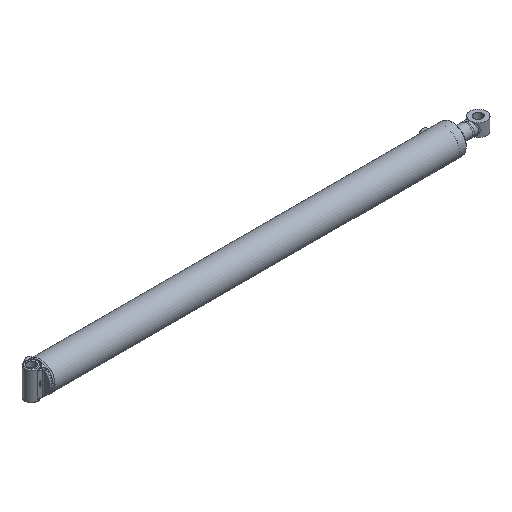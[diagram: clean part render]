
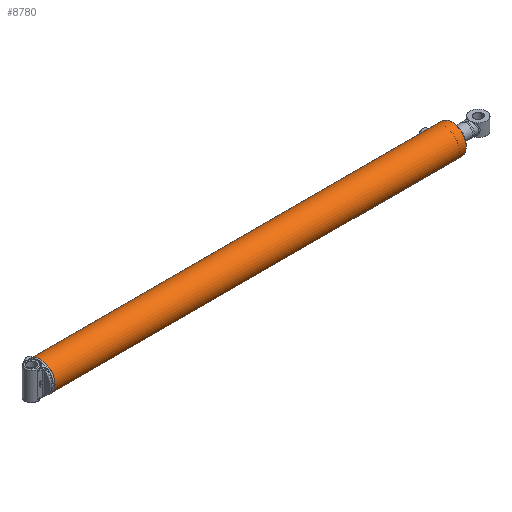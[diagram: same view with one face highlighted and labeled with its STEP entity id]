
A CAD part, isometric view. The second image highlights one B-rep face of the part: STEP entity #8780.
In plain terms, the highlighted cylindrical face has radius 56.356 mm (diameter 112.712 mm), a full revolution.
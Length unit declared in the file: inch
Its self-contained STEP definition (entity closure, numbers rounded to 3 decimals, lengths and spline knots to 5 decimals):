
#808=B_SPLINE_CURVE_WITH_KNOTS('',3,(#13133,#13134,#13135,#13136,#13137,
#13138,#13139,#13140,#13141,#13142),.UNSPECIFIED.,.F.,.F.,(4,2,2,2,4),(0.,
0.23942,0.47883,0.71824,0.95766),
 .UNSPECIFIED.);
#809=B_SPLINE_CURVE_WITH_KNOTS('',3,(#13143,#13144,#13145,#13146,#13147,
#13148,#13149,#13150,#13151,#13152,#13153,#13154,#13155,#13156,#13157,#13158,
#13159,#13160,#13161,#13162,#13163,#13164,#13165,#13166,#13167,#13168),
 .UNSPECIFIED.,.F.,.F.,(4,2,2,2,2,2,2,2,2,2,2,2,4),(0.95766,1.19707,
1.43649,1.6759,1.91532,2.15473,2.39415,
2.63356,2.87297,3.11239,3.3518,3.59122,
3.83063),.UNSPECIFIED.);
#810=B_SPLINE_CURVE_WITH_KNOTS('',3,(#13173,#13174,#13175,#13176,#13177,
#13178,#13179,#13180,#13181,#13182),.UNSPECIFIED.,.F.,.F.,(4,2,2,2,4),(0.,
0.23942,0.47883,0.71824,0.95766),
 .UNSPECIFIED.);
#811=B_SPLINE_CURVE_WITH_KNOTS('',3,(#13183,#13184,#13185,#13186,#13187,
#13188,#13189,#13190,#13191,#13192,#13193,#13194,#13195,#13196,#13197,#13198,
#13199,#13200,#13201,#13202,#13203,#13204,#13205,#13206,#13207,#13208),
 .UNSPECIFIED.,.F.,.F.,(4,2,2,2,2,2,2,2,2,2,2,2,4),(0.95766,1.19707,
1.43649,1.6759,1.91532,2.15473,2.39415,
2.63356,2.87297,3.11239,3.3518,3.59122,
3.83063),.UNSPECIFIED.);
#1096=FACE_BOUND('',#2595,.T.);
#1097=FACE_BOUND('',#2596,.T.);
#1352=LINE('',#13244,#1693);
#1693=VECTOR('',#10661,2.21875);
#2031=CYLINDRICAL_SURFACE('',#9525,2.21875);
#2119=FACE_OUTER_BOUND('',#2594,.T.);
#2594=EDGE_LOOP('',(#6139,#6140,#6141,#6142,#6143,#6144));
#2595=EDGE_LOOP('',(#6145,#6146));
#2596=EDGE_LOOP('',(#6147,#6148));
#3157=CIRCLE('',#9522,2.21875);
#3159=CIRCLE('',#9524,2.21875);
#3160=CIRCLE('',#9526,2.21875);
#3161=CIRCLE('',#9527,2.21875);
#3801=VERTEX_POINT('',#13130);
#3802=VERTEX_POINT('',#13132);
#3803=VERTEX_POINT('',#13170);
#3804=VERTEX_POINT('',#13172);
#3815=VERTEX_POINT('',#13237);
#3816=VERTEX_POINT('',#13238);
#3817=VERTEX_POINT('',#13243);
#3818=VERTEX_POINT('',#13245);
#4736=EDGE_CURVE('',#3802,#3801,#808,.T.);
#4737=EDGE_CURVE('',#3801,#3802,#809,.T.);
#4739=EDGE_CURVE('',#3804,#3803,#810,.T.);
#4740=EDGE_CURVE('',#3803,#3804,#811,.T.);
#4754=EDGE_CURVE('',#3815,#3816,#3157,.T.);
#4756=EDGE_CURVE('',#3816,#3815,#3159,.T.);
#4757=EDGE_CURVE('',#3815,#3817,#1352,.T.);
#4758=EDGE_CURVE('',#3818,#3817,#3160,.T.);
#4759=EDGE_CURVE('',#3817,#3818,#3161,.T.);
#6139=ORIENTED_EDGE('',*,*,#4754,.F.);
#6140=ORIENTED_EDGE('',*,*,#4757,.T.);
#6141=ORIENTED_EDGE('',*,*,#4758,.F.);
#6142=ORIENTED_EDGE('',*,*,#4759,.F.);
#6143=ORIENTED_EDGE('',*,*,#4757,.F.);
#6144=ORIENTED_EDGE('',*,*,#4756,.F.);
#6145=ORIENTED_EDGE('',*,*,#4736,.T.);
#6146=ORIENTED_EDGE('',*,*,#4737,.T.);
#6147=ORIENTED_EDGE('',*,*,#4739,.T.);
#6148=ORIENTED_EDGE('',*,*,#4740,.T.);
#8780=ADVANCED_FACE('',(#2119,#1096,#1097),#2031,.T.);
#9522=AXIS2_PLACEMENT_3D('',#13239,#10653,#10654);
#9524=AXIS2_PLACEMENT_3D('',#13241,#10657,#10658);
#9525=AXIS2_PLACEMENT_3D('',#13242,#10659,#10660);
#9526=AXIS2_PLACEMENT_3D('',#13246,#10662,#10663);
#9527=AXIS2_PLACEMENT_3D('',#13247,#10664,#10665);
#10653=DIRECTION('center_axis',(1.,0.,0.));
#10654=DIRECTION('ref_axis',(0.,-1.,0.));
#10657=DIRECTION('center_axis',(1.,0.,0.));
#10658=DIRECTION('ref_axis',(0.,-1.,0.));
#10659=DIRECTION('center_axis',(1.,0.,0.));
#10660=DIRECTION('ref_axis',(0.,-1.,0.));
#10661=DIRECTION('',(-1.,0.,0.));
#10662=DIRECTION('center_axis',(-1.,0.,0.));
#10663=DIRECTION('ref_axis',(0.,-1.,0.));
#10664=DIRECTION('center_axis',(-1.,0.,0.));
#10665=DIRECTION('ref_axis',(0.,-1.,0.));
#13130=CARTESIAN_POINT('',(0.75,0.,2.21875));
#13132=CARTESIAN_POINT('',(1.,-0.25,2.20462));
#13133=CARTESIAN_POINT('Ctrl Pts',(1.,-0.25,2.20462));
#13134=CARTESIAN_POINT('Ctrl Pts',(0.96858,-0.25,2.20462));
#13135=CARTESIAN_POINT('Ctrl Pts',(0.93509,-0.24372,
2.20536));
#13136=CARTESIAN_POINT('Ctrl Pts',(0.8735,-0.21819,
2.20803));
#13137=CARTESIAN_POINT('Ctrl Pts',(0.8454,-0.19896,
2.20992));
#13138=CARTESIAN_POINT('Ctrl Pts',(0.80104,-0.1546,
2.21347));
#13139=CARTESIAN_POINT('Ctrl Pts',(0.78181,-0.1265,
2.21536));
#13140=CARTESIAN_POINT('Ctrl Pts',(0.75628,-0.06491,
2.21801));
#13141=CARTESIAN_POINT('Ctrl Pts',(0.75,-0.03142,2.21875));
#13142=CARTESIAN_POINT('Ctrl Pts',(0.75,0.,2.21875));
#13143=CARTESIAN_POINT('Ctrl Pts',(0.75,0.,2.21875));
#13144=CARTESIAN_POINT('Ctrl Pts',(0.75,0.03142,2.21875));
#13145=CARTESIAN_POINT('Ctrl Pts',(0.75628,0.06491,
2.21801));
#13146=CARTESIAN_POINT('Ctrl Pts',(0.78181,0.1265,
2.21536));
#13147=CARTESIAN_POINT('Ctrl Pts',(0.80104,0.1546,
2.21347));
#13148=CARTESIAN_POINT('Ctrl Pts',(0.8454,0.19896,
2.20992));
#13149=CARTESIAN_POINT('Ctrl Pts',(0.8735,0.21819,2.20803));
#13150=CARTESIAN_POINT('Ctrl Pts',(0.93509,0.24372,
2.20536));
#13151=CARTESIAN_POINT('Ctrl Pts',(0.96858,0.25,2.20462));
#13152=CARTESIAN_POINT('Ctrl Pts',(1.03142,0.25,2.20462));
#13153=CARTESIAN_POINT('Ctrl Pts',(1.06491,0.24372,2.20536));
#13154=CARTESIAN_POINT('Ctrl Pts',(1.1265,0.21819,2.20803));
#13155=CARTESIAN_POINT('Ctrl Pts',(1.1546,0.19896,2.20992));
#13156=CARTESIAN_POINT('Ctrl Pts',(1.19896,0.1546,2.21347));
#13157=CARTESIAN_POINT('Ctrl Pts',(1.21819,0.1265,2.21536));
#13158=CARTESIAN_POINT('Ctrl Pts',(1.24372,0.06491,
2.21801));
#13159=CARTESIAN_POINT('Ctrl Pts',(1.25,0.03142,2.21875));
#13160=CARTESIAN_POINT('Ctrl Pts',(1.25,-0.03142,2.21875));
#13161=CARTESIAN_POINT('Ctrl Pts',(1.24372,-0.06491,
2.21801));
#13162=CARTESIAN_POINT('Ctrl Pts',(1.21819,-0.1265,
2.21536));
#13163=CARTESIAN_POINT('Ctrl Pts',(1.19896,-0.1546,
2.21347));
#13164=CARTESIAN_POINT('Ctrl Pts',(1.1546,-0.19896,
2.20992));
#13165=CARTESIAN_POINT('Ctrl Pts',(1.1265,-0.21819,2.20803));
#13166=CARTESIAN_POINT('Ctrl Pts',(1.06491,-0.24372,2.20536));
#13167=CARTESIAN_POINT('Ctrl Pts',(1.03142,-0.25,2.20462));
#13168=CARTESIAN_POINT('Ctrl Pts',(1.,-0.25,2.20462));
#13170=CARTESIAN_POINT('',(61.87,0.,2.21875));
#13172=CARTESIAN_POINT('',(62.12,-0.25,2.20462));
#13173=CARTESIAN_POINT('Ctrl Pts',(62.12,-0.25,2.20462));
#13174=CARTESIAN_POINT('Ctrl Pts',(62.08858,-0.25,
2.20462));
#13175=CARTESIAN_POINT('Ctrl Pts',(62.05509,-0.24372,
2.20536));
#13176=CARTESIAN_POINT('Ctrl Pts',(61.9935,-0.21819,
2.20803));
#13177=CARTESIAN_POINT('Ctrl Pts',(61.9654,-0.19896,
2.20992));
#13178=CARTESIAN_POINT('Ctrl Pts',(61.92104,-0.1546,2.21347));
#13179=CARTESIAN_POINT('Ctrl Pts',(61.90181,-0.1265,
2.21536));
#13180=CARTESIAN_POINT('Ctrl Pts',(61.87628,-0.06491,
2.21801));
#13181=CARTESIAN_POINT('Ctrl Pts',(61.87,-0.03142,2.21875));
#13182=CARTESIAN_POINT('Ctrl Pts',(61.87,0.,2.21875));
#13183=CARTESIAN_POINT('Ctrl Pts',(61.87,0.,2.21875));
#13184=CARTESIAN_POINT('Ctrl Pts',(61.87,0.03142,2.21875));
#13185=CARTESIAN_POINT('Ctrl Pts',(61.87628,0.06491,
2.21801));
#13186=CARTESIAN_POINT('Ctrl Pts',(61.90181,0.1265,2.21536));
#13187=CARTESIAN_POINT('Ctrl Pts',(61.92104,0.1546,2.21347));
#13188=CARTESIAN_POINT('Ctrl Pts',(61.9654,0.19896,2.20992));
#13189=CARTESIAN_POINT('Ctrl Pts',(61.9935,0.21819,2.20803));
#13190=CARTESIAN_POINT('Ctrl Pts',(62.05509,0.24372,2.20536));
#13191=CARTESIAN_POINT('Ctrl Pts',(62.08858,0.25,2.20462));
#13192=CARTESIAN_POINT('Ctrl Pts',(62.15142,0.25,2.20462));
#13193=CARTESIAN_POINT('Ctrl Pts',(62.18491,0.24372,2.20536));
#13194=CARTESIAN_POINT('Ctrl Pts',(62.2465,0.21819,2.20803));
#13195=CARTESIAN_POINT('Ctrl Pts',(62.2746,0.19896,2.20992));
#13196=CARTESIAN_POINT('Ctrl Pts',(62.31896,0.1546,2.21347));
#13197=CARTESIAN_POINT('Ctrl Pts',(62.33819,0.1265,2.21536));
#13198=CARTESIAN_POINT('Ctrl Pts',(62.36372,0.06491,
2.21801));
#13199=CARTESIAN_POINT('Ctrl Pts',(62.37,0.03142,2.21875));
#13200=CARTESIAN_POINT('Ctrl Pts',(62.37,-0.03142,2.21875));
#13201=CARTESIAN_POINT('Ctrl Pts',(62.36372,-0.06491,
2.21801));
#13202=CARTESIAN_POINT('Ctrl Pts',(62.33819,-0.1265,
2.21536));
#13203=CARTESIAN_POINT('Ctrl Pts',(62.31896,-0.1546,2.21347));
#13204=CARTESIAN_POINT('Ctrl Pts',(62.2746,-0.19896,
2.20992));
#13205=CARTESIAN_POINT('Ctrl Pts',(62.2465,-0.21819,
2.20803));
#13206=CARTESIAN_POINT('Ctrl Pts',(62.18491,-0.24372,
2.20536));
#13207=CARTESIAN_POINT('Ctrl Pts',(62.15142,-0.25,
2.20462));
#13208=CARTESIAN_POINT('Ctrl Pts',(62.12,-0.25,2.20462));
#13237=CARTESIAN_POINT('',(63.61,2.21875,0.));
#13238=CARTESIAN_POINT('',(63.61,0.,-2.21875));
#13239=CARTESIAN_POINT('Origin',(63.61,0.,0.));
#13241=CARTESIAN_POINT('Origin',(63.61,0.,0.));
#13242=CARTESIAN_POINT('Origin',(0.,0.,0.));
#13243=CARTESIAN_POINT('',(0.11186,2.21875,0.));
#13244=CARTESIAN_POINT('',(0.,2.21875,0.));
#13245=CARTESIAN_POINT('',(0.11186,0.,2.21875));
#13246=CARTESIAN_POINT('Origin',(0.11186,0.,0.));
#13247=CARTESIAN_POINT('Origin',(0.11186,0.,0.));
